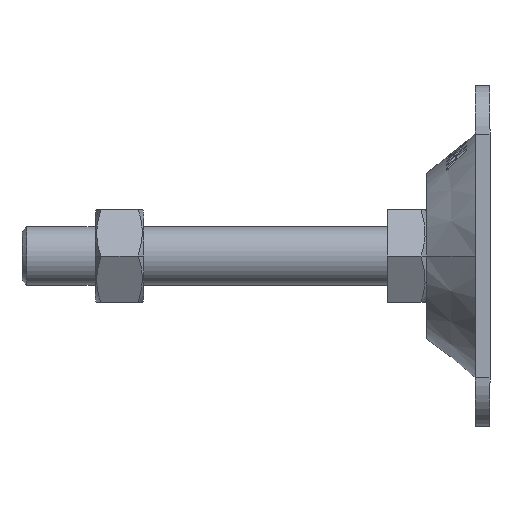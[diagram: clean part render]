
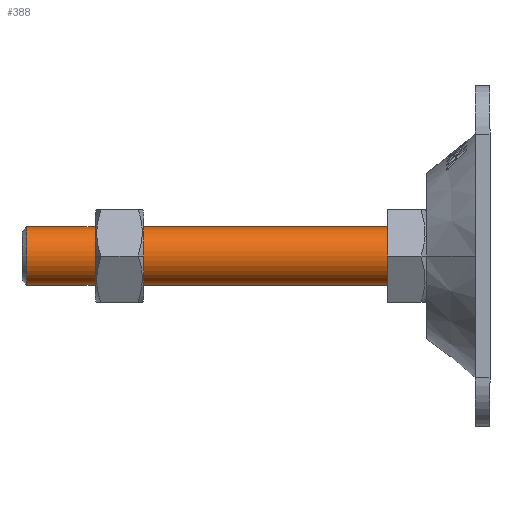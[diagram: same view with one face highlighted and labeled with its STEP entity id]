
A CAD part, left-side view. The second image highlights one B-rep face of the part: STEP entity #388.
In plain terms, the highlighted cylindrical face has radius 6 mm (diameter 12 mm), a partial arc.
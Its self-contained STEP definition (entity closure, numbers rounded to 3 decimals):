
#98 = DIRECTION ( 'NONE',  ( 0., -1., 0. ) ) ;
#322 = VERTEX_POINT ( 'NONE', #3852 ) ;
#388 = ADVANCED_FACE ( 'NONE', ( #3431 ), #675, .T. ) ;
#395 = EDGE_LOOP ( 'NONE', ( #4670, #4055, #5456, #4450 ) ) ;
#551 = LINE ( 'NONE', #1425, #5405 ) ;
#580 = DIRECTION ( 'NONE',  ( 0., 0., -1. ) ) ;
#675 = CYLINDRICAL_SURFACE ( 'NONE', #2052, 6. ) ;
#707 = CARTESIAN_POINT ( 'NONE',  ( 0., 6., -6. ) ) ;
#767 = LINE ( 'NONE', #707, #5922 ) ;
#1041 = CIRCLE ( 'NONE', #3157, 6. ) ;
#1143 = AXIS2_PLACEMENT_3D ( 'NONE', #3659, #1407, #5482 ) ;
#1390 = CARTESIAN_POINT ( 'NONE',  ( 0., 82., 6. ) ) ;
#1407 = DIRECTION ( 'NONE',  ( 0., -1., 0. ) ) ;
#1425 = CARTESIAN_POINT ( 'NONE',  ( 0., 6., 6. ) ) ;
#1500 = EDGE_CURVE ( 'NONE', #5464, #4189, #551, .T. ) ;
#2052 = AXIS2_PLACEMENT_3D ( 'NONE', #4687, #98, #580 ) ;
#2961 = CIRCLE ( 'NONE', #1143, 6. ) ;
#3157 = AXIS2_PLACEMENT_3D ( 'NONE', #4250, #3364, #5184 ) ;
#3364 = DIRECTION ( 'NONE',  ( 0., 1., 0. ) ) ;
#3431 = FACE_OUTER_BOUND ( 'NONE', #395, .T. ) ;
#3659 = CARTESIAN_POINT ( 'NONE',  ( 0., 82., 0. ) ) ;
#3852 = CARTESIAN_POINT ( 'NONE',  ( 0., 82., -6. ) ) ;
#3943 = VERTEX_POINT ( 'NONE', #5324 ) ;
#4055 = ORIENTED_EDGE ( 'NONE', *, *, #4682, .T. ) ;
#4189 = VERTEX_POINT ( 'NONE', #4785 ) ;
#4241 = EDGE_CURVE ( 'NONE', #322, #3943, #767, .T. ) ;
#4250 = CARTESIAN_POINT ( 'NONE',  ( 0., 8., 0. ) ) ;
#4450 = ORIENTED_EDGE ( 'NONE', *, *, #4823, .T. ) ;
#4670 = ORIENTED_EDGE ( 'NONE', *, *, #1500, .F. ) ;
#4682 = EDGE_CURVE ( 'NONE', #5464, #322, #2961, .T. ) ;
#4687 = CARTESIAN_POINT ( 'NONE',  ( 0., 6., 0. ) ) ;
#4785 = CARTESIAN_POINT ( 'NONE',  ( 0., 8., 6. ) ) ;
#4823 = EDGE_CURVE ( 'NONE', #3943, #4189, #1041, .T. ) ;
#5077 = DIRECTION ( 'NONE',  ( 0., -1., 0. ) ) ;
#5184 = DIRECTION ( 'NONE',  ( 0., 0., 1. ) ) ;
#5324 = CARTESIAN_POINT ( 'NONE',  ( 0., 8., -6. ) ) ;
#5405 = VECTOR ( 'NONE', #5077, 1000. ) ;
#5456 = ORIENTED_EDGE ( 'NONE', *, *, #4241, .T. ) ;
#5464 = VERTEX_POINT ( 'NONE', #1390 ) ;
#5482 = DIRECTION ( 'NONE',  ( 0., 0., -1. ) ) ;
#5806 = DIRECTION ( 'NONE',  ( 0., -1., 0. ) ) ;
#5922 = VECTOR ( 'NONE', #5806, 1000. ) ;
